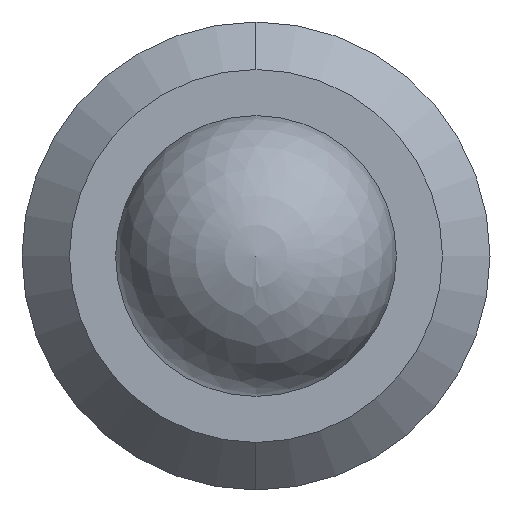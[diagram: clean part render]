
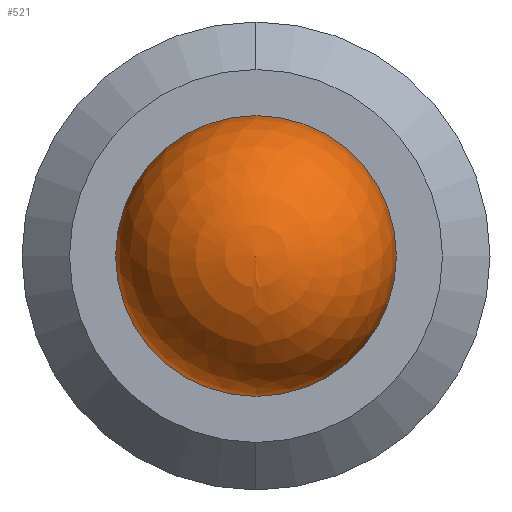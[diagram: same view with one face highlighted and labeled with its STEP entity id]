
A CAD part, left-side view. The second image highlights one B-rep face of the part: STEP entity #521.
In plain terms, the highlighted spherical face has radius 0.75 mm.
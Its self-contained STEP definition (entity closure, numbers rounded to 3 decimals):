
#51 = ORIENTED_EDGE ( 'NONE', *, *, #133, .F. ) ;
#54 = CIRCLE ( 'NONE', #404, 0.75 ) ;
#133 = EDGE_CURVE ( 'NONE', #212, #571, #484, .T. ) ;
#155 = EDGE_CURVE ( 'NONE', #212, #571, #54, .T. ) ;
#212 = VERTEX_POINT ( 'NONE', #260 ) ;
#236 = ORIENTED_EDGE ( 'NONE', *, *, #155, .T. ) ;
#260 = CARTESIAN_POINT ( 'NONE',  ( 0., 0.75, 0. ) ) ;
#283 = EDGE_LOOP ( 'NONE', ( #51, #236 ) ) ;
#295 = CARTESIAN_POINT ( 'NONE',  ( 0., -0.75, 0. ) ) ;
#307 = SPHERICAL_SURFACE ( 'NONE', #495, 0.75 ) ;
#388 = DIRECTION ( 'NONE',  ( 0., 0., -1. ) ) ;
#404 = AXIS2_PLACEMENT_3D ( 'NONE', #416, #413, #409 ) ;
#409 = DIRECTION ( 'NONE',  ( 0., 0., 1. ) ) ;
#413 = DIRECTION ( 'NONE',  ( -1., 0., 0. ) ) ;
#415 = AXIS2_PLACEMENT_3D ( 'NONE', #481, #480, #477 ) ;
#416 = CARTESIAN_POINT ( 'NONE',  ( 0., 0., 0. ) ) ;
#417 = DIRECTION ( 'NONE',  ( 1., 0., 0. ) ) ;
#418 = FACE_OUTER_BOUND ( 'NONE', #283, .T. ) ;
#428 = CARTESIAN_POINT ( 'NONE',  ( 0., 0., 0. ) ) ;
#477 = DIRECTION ( 'NONE',  ( 0., 0., -1. ) ) ;
#480 = DIRECTION ( 'NONE',  ( 1., 0., 0. ) ) ;
#481 = CARTESIAN_POINT ( 'NONE',  ( 0., 0., 0. ) ) ;
#484 = CIRCLE ( 'NONE', #415, 0.75 ) ;
#495 = AXIS2_PLACEMENT_3D ( 'NONE', #428, #417, #388 ) ;
#521 = ADVANCED_FACE ( 'NONE', ( #418 ), #307, .T. ) ;
#571 = VERTEX_POINT ( 'NONE', #295 ) ;
